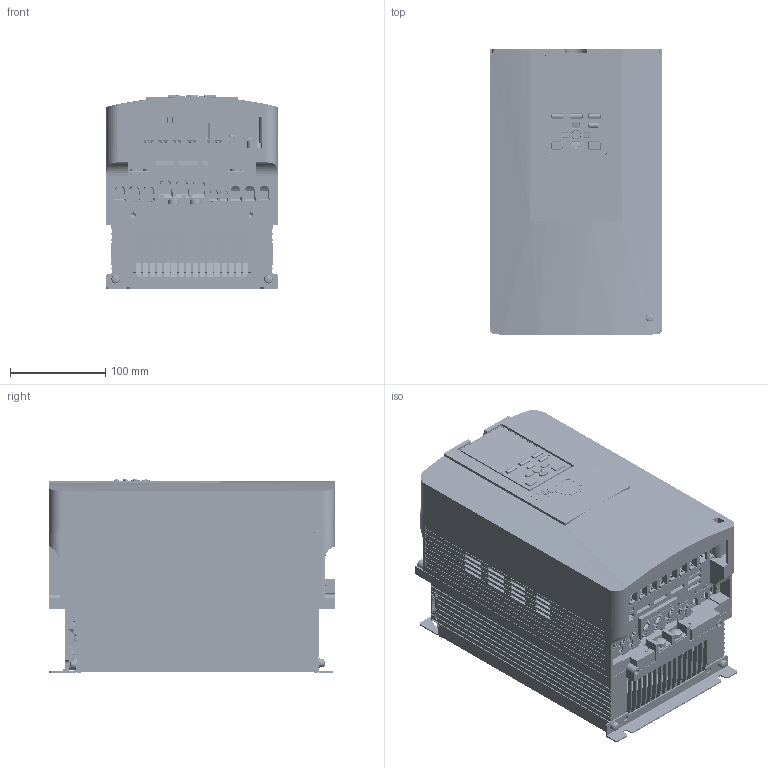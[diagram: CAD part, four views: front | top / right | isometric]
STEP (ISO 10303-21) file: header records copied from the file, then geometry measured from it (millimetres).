
FILE_DESCRIPTION((''),'2;1');
FILE_NAME('71617-LA70_Q_4039_AB_B_Q_A_00_ASM','2023-12-11T19:13:00',('ksaka'),('YASKAWA ELECTRIC CORCORATION'),'CREO PARAMETRIC BY PTC INC, 2021072','CREO PARAMETRIC BY PTC INC, 2021072','');
FILE_SCHEMA(('CONFIG_CONTROL_DESIGN'));
Products named in the file (21): LAY-GA70_4038; LA70_4039_BODY__AF0; GA70_4038_MTG_PLATE_BOTTOM; GEM_OPEN_SCREW_M5X14; GA70_4038_MTG_PLATE_TOP; GA70_4038_FAN; GA70_4038_FAN_COVER; GEM_OPEN_SCREW_M4X20; GEM_OPEN_SCREW_M3P5X6; GEM_OPEN_SCREW_M3X15; LA70_ALL_TB_TYPEG; GA70_ALL_LED; GA70_4038_IP20_COVER; GA70_4038_FP; GA70_ALL_USB_COVER; GA70_ALL_CONNECTOR; GA70_ALL_LCD_OPERATOR; GA70_4038_SCREW_GND; GA70_4031_SHORT_BAR; LA700_ALL_HOUSING_M; 71617-LA70_Q_4039_AB_B_Q_A_00_ASM
Assembly tree (25 placements, depth 2):
  71617-LA70_Q_4039_AB_B_Q_A_00_ASM
    LAY-GA70_4038
    LA70_4039_BODY__AF0
    GA70_4038_MTG_PLATE_BOTTOM
    GEM_OPEN_SCREW_M5X14  x4
    GA70_4038_MTG_PLATE_TOP
    GA70_4038_FAN  x2
    GA70_4038_FAN_COVER
    GEM_OPEN_SCREW_M4X20
    GEM_OPEN_SCREW_M3P5X6
    GEM_OPEN_SCREW_M3X15
    LA70_ALL_TB_TYPEG
    GA70_ALL_LED
    GA70_4038_IP20_COVER
    GA70_4038_FP
    GA70_ALL_USB_COVER
    GA70_ALL_CONNECTOR
    GA70_ALL_LCD_OPERATOR
    GA70_4038_SCREW_GND  x2
    GA70_4031_SHORT_BAR
    LA700_ALL_HOUSING_M
Bounding box: 180 x 300 x 202.8 mm (x, y, z)
Volume: 4583529.1 mm3; surface area: 964979.7 mm2
Topology: 25 solids, 57 shells, 12184 faces, 33560 edges, 21925 vertices
Faces by surface type: plane 9478, cylinder 2032, bspline 208, torus 199, cone 192, extrusion 45, sphere 30
Entity records: 396748 total; most frequent: CARTESIAN_POINT 94352, ORIENTED_EDGE 65122, DIRECTION 58556, EDGE_CURVE 32561, VECTOR 26718, LINE 26673, VERTEX_POINT 21317, AXIS2_PLACEMENT_3D 15919
